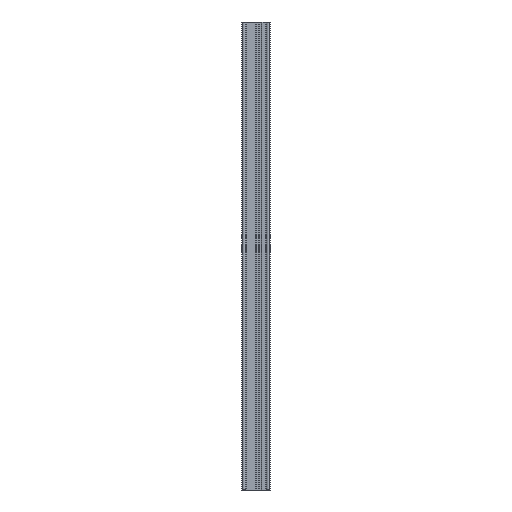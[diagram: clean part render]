
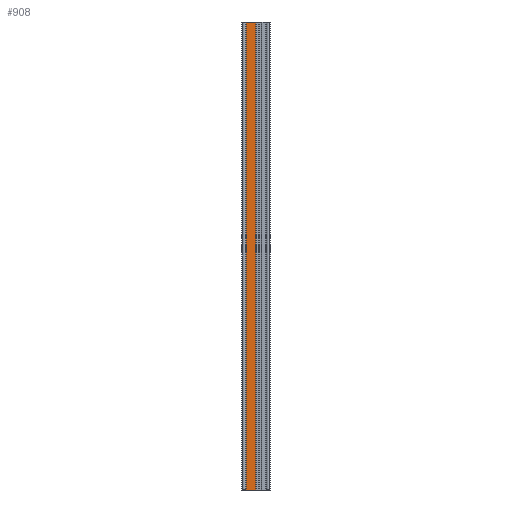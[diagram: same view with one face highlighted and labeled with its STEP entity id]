
A CAD part, left-side view. The second image highlights one B-rep face of the part: STEP entity #908.
In plain terms, the highlighted planar face has unit normal (-1, 0, 0).
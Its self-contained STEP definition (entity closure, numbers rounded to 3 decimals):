
#703 = VERTEX_POINT ( 'NONE', #8537 ) ;
#732 = ORIENTED_EDGE ( 'NONE', *, *, #733, .F. ) ;
#733 = EDGE_CURVE ( 'NONE', #703, #915, #8492, .T. ) ;
#895 = VERTEX_POINT ( 'NONE', #4054 ) ;
#898 = EDGE_CURVE ( 'NONE', #899, #895, #4053, .T. ) ;
#899 = VERTEX_POINT ( 'NONE', #4250 ) ;
#908 = ADVANCED_FACE ( 'NONE', ( #4239 ), #4238, .T. ) ;
#910 = EDGE_LOOP ( 'NONE', ( #912, #732, #1247, #1249 ) ) ;
#912 = ORIENTED_EDGE ( 'NONE', *, *, #913, .F. ) ;
#913 = EDGE_CURVE ( 'NONE', #915, #895, #4233, .T. ) ;
#915 = VERTEX_POINT ( 'NONE', #4229 ) ;
#1247 = ORIENTED_EDGE ( 'NONE', *, *, #1248, .T. ) ;
#1248 = EDGE_CURVE ( 'NONE', #703, #899, #4963, .T. ) ;
#1249 = ORIENTED_EDGE ( 'NONE', *, *, #898, .T. ) ;
#4051 = VECTOR ( 'NONE', #4251, 1000. ) ;
#4052 = CARTESIAN_POINT ( 'NONE',  ( -40., 40.3, -649. ) ) ;
#4053 = LINE ( 'NONE', #4052, #4051 ) ;
#4054 = CARTESIAN_POINT ( 'NONE',  ( -40., 40.3, 649. ) ) ;
#4229 = CARTESIAN_POINT ( 'NONE',  ( -40., 67.222, 649. ) ) ;
#4230 = DIRECTION ( 'NONE',  ( 0., -1., 0. ) ) ;
#4231 = VECTOR ( 'NONE', #4230, 1000. ) ;
#4232 = CARTESIAN_POINT ( 'NONE',  ( -40., 40.3, 649. ) ) ;
#4233 = LINE ( 'NONE', #4232, #4231 ) ;
#4234 = DIRECTION ( 'NONE',  ( 0., -1., 0. ) ) ;
#4235 = DIRECTION ( 'NONE',  ( -1., 0., 0. ) ) ;
#4236 = CARTESIAN_POINT ( 'NONE',  ( -40., 40.3, -649. ) ) ;
#4237 = AXIS2_PLACEMENT_3D ( 'NONE', #4236, #4235, #4234 ) ;
#4238 = PLANE ( 'NONE',  #4237 ) ;
#4239 = FACE_OUTER_BOUND ( 'NONE', #910, .T. ) ;
#4250 = CARTESIAN_POINT ( 'NONE',  ( -40., 40.3, -649. ) ) ;
#4251 = DIRECTION ( 'NONE',  ( 0., 0., 1. ) ) ;
#4960 = DIRECTION ( 'NONE',  ( 0., -1., 0. ) ) ;
#4961 = VECTOR ( 'NONE', #4960, 1000. ) ;
#4962 = CARTESIAN_POINT ( 'NONE',  ( -40., 40.3, -649. ) ) ;
#4963 = LINE ( 'NONE', #4962, #4961 ) ;
#8489 = DIRECTION ( 'NONE',  ( 0., 0., 1. ) ) ;
#8490 = VECTOR ( 'NONE', #8489, 1000. ) ;
#8491 = CARTESIAN_POINT ( 'NONE',  ( -40., 67.222, -649. ) ) ;
#8492 = LINE ( 'NONE', #8491, #8490 ) ;
#8537 = CARTESIAN_POINT ( 'NONE',  ( -40., 67.222, -649. ) ) ;
